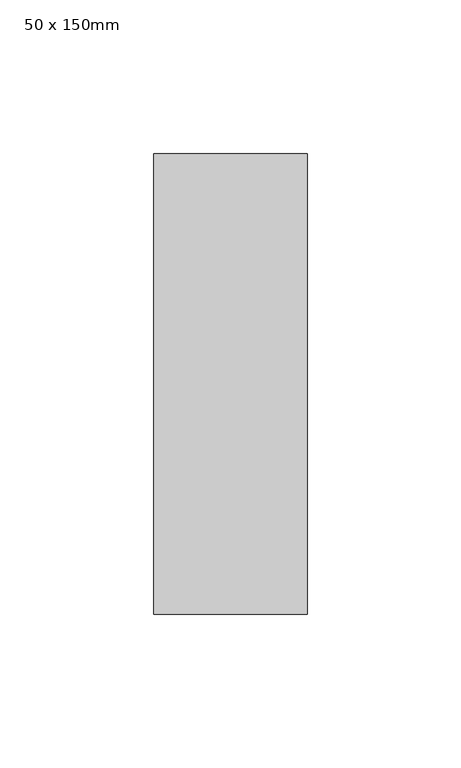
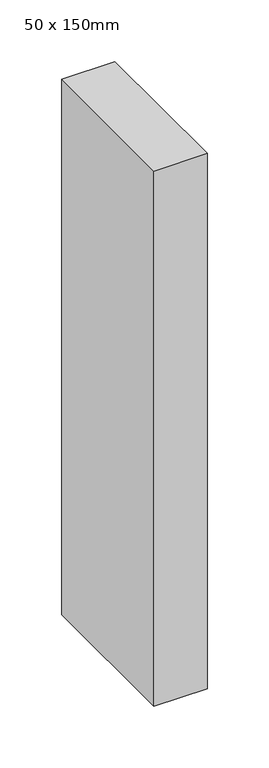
"""IFC4 building model written with IfcOpenShell, lengths in millimetres: member geometry, Прямоугольный импост : 50 x 150mm."""

from ifc_helpers import new_model, si_unit, frame, origin, place, context, project, spatial, polyline, outline, extrude, source, transform, mapped, element, save


def member_50_x_150mm_eb1e0468(model_context):
    return source(origin(), model_context, "Body", "SweptSolid", [
        extrude(outline(polyline([(0.0, 75.0), (0.0, -75.0), (-50.0, -75.0), (-50.0, 75.0), (0.0, 75.0)])), frame((0.0, 0.0, -530.5), z_axis=(0.0, 0.0, 1.0), x_axis=(1.0, 0.0, 0.0)), (0.0, 0.0, 1.0), 530.5),
    ])


if __name__ == "__main__":
    model = new_model("IFC4")
    model_context = context("Model", 3, world=origin())
    ifc_project = project(units=[si_unit("LENGTHUNIT", "METRE", prefix="MILLI")], contexts=[model_context])
    site = spatial("IfcSite", under=ifc_project)
    building = spatial("IfcBuilding", under=site)
    placement = place(None, origin())
    member_50_x_150mm_shape = member_50_x_150mm_eb1e0468(model_context)
    element("IfcMember", 1, ObjectType="Прямоугольный импост : 50 x 150mm", at=placement, inside=building, context=model_context, shape_type="MappedRepresentation", body=[
        mapped(member_50_x_150mm_shape, transform((0.0, 0.0, 0.0), x_axis=(1.0, 0.0, 0.0), y_axis=(0.0, 1.0, 0.0), z_axis=(0.0, 0.0, 1.0))),
    ])
    save(model, "model.ifc")
